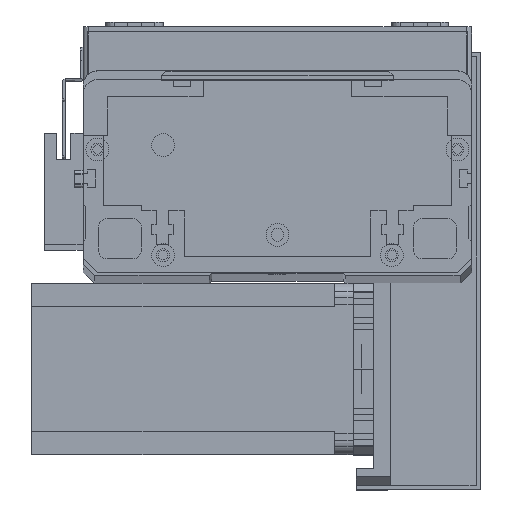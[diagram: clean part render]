
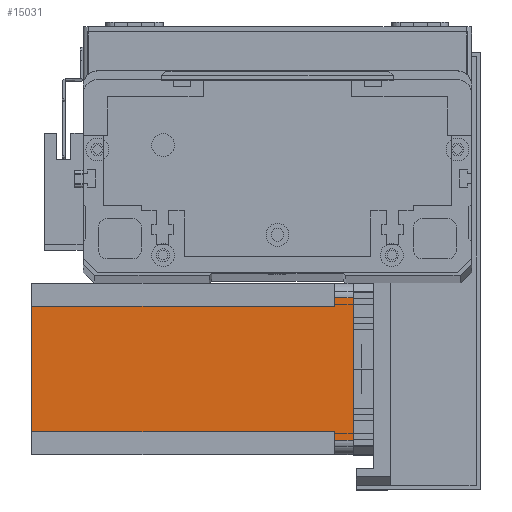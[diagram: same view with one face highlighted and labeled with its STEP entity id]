
A CAD part, top view. The second image highlights one B-rep face of the part: STEP entity #15031.
In plain terms, the highlighted planar face has unit normal (0, 0, 1) as drawn and (0, -1, 0) by its records, which use the part's own axes.
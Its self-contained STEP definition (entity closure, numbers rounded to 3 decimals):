
#11 = LINE ( 'NONE', #12473, #22374 ) ;
#256 = CARTESIAN_POINT ( 'NONE',  ( 52., 0., -6.5 ) ) ;
#908 = DIRECTION ( 'NONE',  ( 0., 0., 1. ) ) ;
#1400 = VECTOR ( 'NONE', #5838, 1000. ) ;
#2098 = VECTOR ( 'NONE', #9714, 1000. ) ;
#2946 = PLANE ( 'NONE',  #17303 ) ;
#3470 = ORIENTED_EDGE ( 'NONE', *, *, #10345, .F. ) ;
#4167 = ORIENTED_EDGE ( 'NONE', *, *, #5876, .F. ) ;
#4184 = ORIENTED_EDGE ( 'NONE', *, *, #5772, .F. ) ;
#4361 = VECTOR ( 'NONE', #29020, 1000. ) ;
#4872 = CARTESIAN_POINT ( 'NONE',  ( 8., 0., -112.5 ) ) ;
#4899 = VERTEX_POINT ( 'NONE', #4872 ) ;
#5417 = CARTESIAN_POINT ( 'NONE',  ( 52., 0., -112.5 ) ) ;
#5487 = ORIENTED_EDGE ( 'NONE', *, *, #21464, .T. ) ;
#5546 = ORIENTED_EDGE ( 'NONE', *, *, #11068, .T. ) ;
#5641 = CARTESIAN_POINT ( 'NONE',  ( 55., 0., 0. ) ) ;
#5768 = VECTOR ( 'NONE', #27476, 1000. ) ;
#5772 = EDGE_CURVE ( 'NONE', #26053, #15141, #7577, .T. ) ;
#5838 = DIRECTION ( 'NONE',  ( -1., 0., 0. ) ) ;
#5876 = EDGE_CURVE ( 'NONE', #16283, #11586, #28642, .T. ) ;
#5901 = LINE ( 'NONE', #5417, #23511 ) ;
#6640 = CARTESIAN_POINT ( 'NONE',  ( 8., 0., -6.5 ) ) ;
#7321 = DIRECTION ( 'NONE',  ( 0., 0., 1. ) ) ;
#7577 = LINE ( 'NONE', #6640, #1400 ) ;
#7992 = DIRECTION ( 'NONE',  ( 1., 0., 0. ) ) ;
#8290 = LINE ( 'NONE', #21228, #2098 ) ;
#8543 = CARTESIAN_POINT ( 'NONE',  ( 0., 0., 0. ) ) ;
#9714 = DIRECTION ( 'NONE',  ( 0., 0., -1. ) ) ;
#9971 = DIRECTION ( 'NONE',  ( 0., -1., 0. ) ) ;
#10257 = CARTESIAN_POINT ( 'NONE',  ( 5., 0., -6.5 ) ) ;
#10345 = EDGE_CURVE ( 'NONE', #24016, #28822, #5901, .T. ) ;
#11068 = EDGE_CURVE ( 'NONE', #24016, #24560, #25199, .T. ) ;
#11102 = ORIENTED_EDGE ( 'NONE', *, *, #22639, .T. ) ;
#11586 = VERTEX_POINT ( 'NONE', #5641 ) ;
#12473 = CARTESIAN_POINT ( 'NONE',  ( 55., 0., -112.5 ) ) ;
#13190 = EDGE_CURVE ( 'NONE', #4899, #26053, #14551, .T. ) ;
#13833 = VECTOR ( 'NONE', #7321, 1000. ) ;
#13940 = CARTESIAN_POINT ( 'NONE',  ( 0., 0., -112.5 ) ) ;
#14551 = LINE ( 'NONE', #21109, #13833 ) ;
#15031 = ADVANCED_FACE ( 'NONE', ( #18411 ), #2946, .T. ) ;
#15141 = VERTEX_POINT ( 'NONE', #10257 ) ;
#15970 = CARTESIAN_POINT ( 'NONE',  ( 8., 0., -6.5 ) ) ;
#16281 = CARTESIAN_POINT ( 'NONE',  ( 55., 0., -6.5 ) ) ;
#16283 = VERTEX_POINT ( 'NONE', #27588 ) ;
#17303 = AXIS2_PLACEMENT_3D ( 'NONE', #23657, #9971, #25890 ) ;
#18411 = FACE_OUTER_BOUND ( 'NONE', #27414, .T. ) ;
#19468 = CARTESIAN_POINT ( 'NONE',  ( 52., 0., -6.5 ) ) ;
#20745 = CARTESIAN_POINT ( 'NONE',  ( 52., 0., -112.5 ) ) ;
#21109 = CARTESIAN_POINT ( 'NONE',  ( 8., 0., -112.5 ) ) ;
#21228 = CARTESIAN_POINT ( 'NONE',  ( 5., 0., -112.5 ) ) ;
#21405 = DIRECTION ( 'NONE',  ( 0., 0., -1. ) ) ;
#21464 = EDGE_CURVE ( 'NONE', #24560, #11586, #11, .T. ) ;
#22374 = VECTOR ( 'NONE', #908, 1000. ) ;
#22639 = EDGE_CURVE ( 'NONE', #16283, #15141, #8290, .T. ) ;
#22982 = ORIENTED_EDGE ( 'NONE', *, *, #29470, .T. ) ;
#23511 = VECTOR ( 'NONE', #21405, 1000. ) ;
#23657 = CARTESIAN_POINT ( 'NONE',  ( 0., 0., -112.5 ) ) ;
#23805 = VECTOR ( 'NONE', #7992, 1000. ) ;
#24016 = VERTEX_POINT ( 'NONE', #256 ) ;
#24058 = LINE ( 'NONE', #13940, #5768 ) ;
#24560 = VERTEX_POINT ( 'NONE', #16281 ) ;
#25199 = LINE ( 'NONE', #19468, #23805 ) ;
#25417 = ORIENTED_EDGE ( 'NONE', *, *, #13190, .F. ) ;
#25890 = DIRECTION ( 'NONE',  ( 0., 0., -1. ) ) ;
#26053 = VERTEX_POINT ( 'NONE', #15970 ) ;
#27414 = EDGE_LOOP ( 'NONE', ( #5546, #5487, #4167, #11102, #4184, #25417, #22982, #3470 ) ) ;
#27476 = DIRECTION ( 'NONE',  ( 1., 0., 0. ) ) ;
#27588 = CARTESIAN_POINT ( 'NONE',  ( 5., 0., 0. ) ) ;
#28642 = LINE ( 'NONE', #8543, #4361 ) ;
#28822 = VERTEX_POINT ( 'NONE', #20745 ) ;
#29020 = DIRECTION ( 'NONE',  ( 1., 0., 0. ) ) ;
#29470 = EDGE_CURVE ( 'NONE', #4899, #28822, #24058, .T. ) ;
